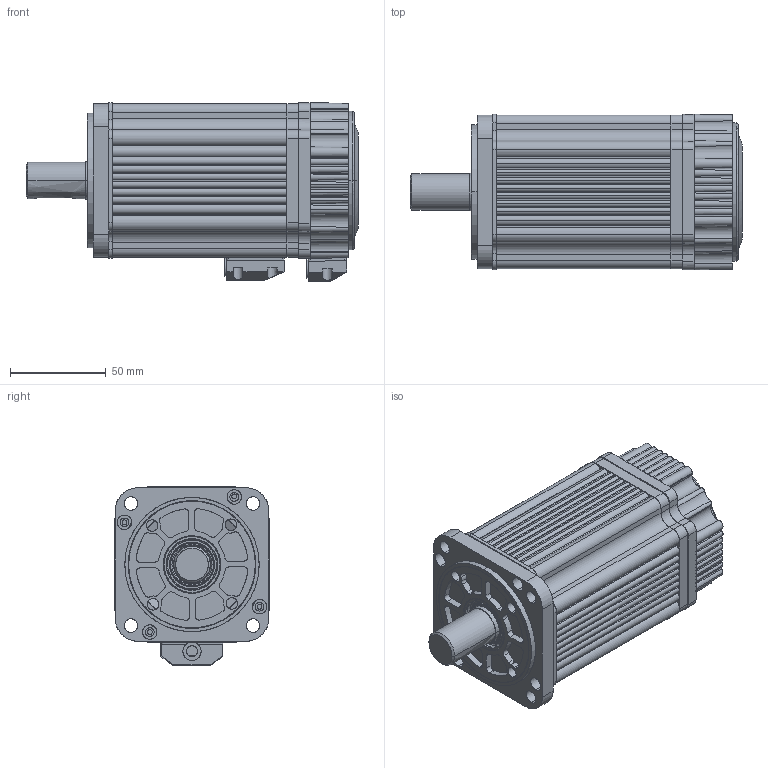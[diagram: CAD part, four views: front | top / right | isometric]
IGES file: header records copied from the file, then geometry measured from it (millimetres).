
Start section: SolidWorks IGES file using analytic representation for surfaces
Global section: file name: E:\est2012\d\17年任务\2017.01.04 外海需求电机3D图升级归档\EMJ-08APB22\EMJ-08(APB22,AFB22)without holding brake.IGS,15HSolidWorks; native system: 2015; preprocessor: SolidWorks 2015; author: hongyunting; date: 170105.150931; units: millimetre
Bounding box: 173 x 81.2 x 93.16 mm (x, y, z)
Surface area: 76901.7 mm2 (no closed solid volume)
Topology: 0 solids, 0 shells, 575 faces, 9587 edges, 9587 vertices
Faces by surface type: revolution 380, bspline 195
